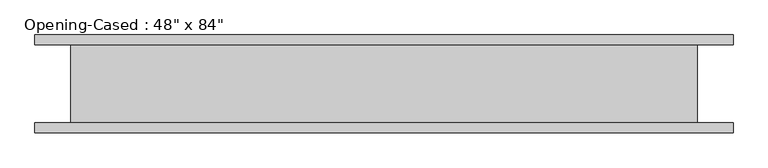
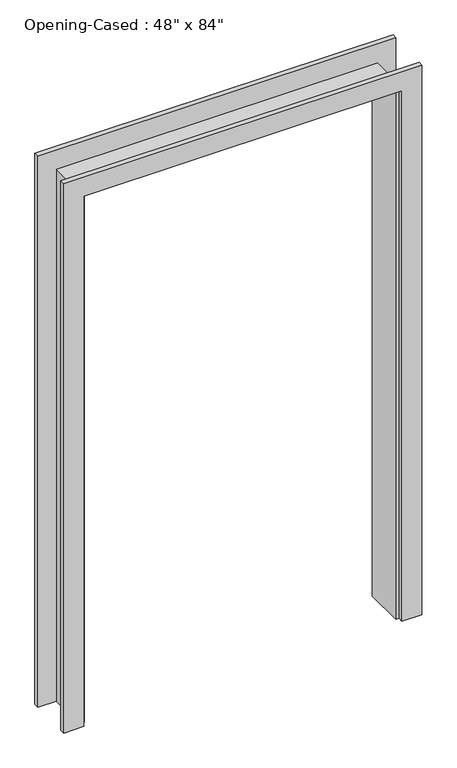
"""IFC4 building model written with IfcOpenShell, lengths in millimetres: proxy geometry."""

from ifc_helpers import new_model, si_unit, frame, origin, place, context, project, spatial, polyline, outline, extrude, faceted_brep, source, transform, mapped, element, save


def proxy_1227038f(model_context):
    return source(origin(), model_context, "Body", "SolidModel", [
        extrude(outline(polyline([(0.0, -611.4386567), (2127.25, -611.4386567), (2127.25, 595.0613433), (0.0, 595.0613433), (0.0, 671.2613433), (2203.45, 671.2613433), (2203.45, -687.6386567), (0.0, -687.6386567), (0.0, -611.4386567)])), frame((0.0, -95.25, 0.0), z_axis=(0.0, 1.0, 0.0), x_axis=(0.0, 0.0, 1.0)), (0.0, 0.0, 1.0), 19.05),
        extrude(outline(polyline([(0.0, 671.2613433), (2209.8, 671.2613433), (2209.8, -687.6386567), (0.0, -687.6386567), (0.0, -611.4386567), (2127.25, -611.4386567), (2127.25, 595.0613433), (0.0, 595.0613433), (0.0, 671.2613433)])), frame((0.0, 76.2, 0.0), z_axis=(0.0, 1.0, 0.0), x_axis=(0.0, 0.0, 1.0)), (0.0, 0.0, 1.0), 19.05),
        faceted_brep([(582.3613433, 76.2, 0.0), (601.4113433, 76.2, 0.0), (601.4113433, -76.2, 0.0), (582.3613433, -76.2, 0.0), (582.3613433, 76.2, 2114.55), (601.4113433, 76.2, 2133.6), (601.4113433, -76.2, 2133.6), (582.3613433, -76.2, 2114.55), (-598.7386567, 76.2, 2114.55), (-617.7886567, 76.2, 2133.6), (-617.7886567, -76.2, 2133.6), (-598.7386567, -76.2, 2114.55), (-598.7386567, 76.2, 0.0), (-598.7386567, -76.2, 0.0), (-617.7886567, -76.2, 0.0), (-617.7886567, 76.2, 0.0)], [[[0, 1, 2, 3]], [[1, 0, 4, 5]], [[2, 1, 5, 6]], [[3, 2, 6, 7]], [[0, 3, 7, 4]], [[5, 4, 8, 9]], [[6, 5, 9, 10]], [[7, 6, 10, 11]], [[4, 7, 11, 8]], [[12, 13, 14, 15]], [[9, 8, 12, 15]], [[10, 9, 15, 14]], [[11, 10, 14, 13]], [[8, 11, 13, 12]]]),
    ])


if __name__ == "__main__":
    model = new_model("IFC4")
    model_context = context("Model", 3, world=origin())
    ifc_project = project(units=[si_unit("LENGTHUNIT", "METRE", prefix="MILLI")], contexts=[model_context])
    site = spatial("IfcSite", under=ifc_project)
    building = spatial("IfcBuilding", under=site)
    placement = place(None, origin())
    proxy_shape = proxy_1227038f(model_context)
    element("IfcBuildingElementProxy", 1, Name="Opening-Cased : 48\" x 84\"", ObjectType="Opening-Cased : 48\" x 84\"", at=placement, inside=building, context=model_context, shape_type="MappedRepresentation", body=[
        mapped(proxy_shape, transform((0.0, 0.0, 0.0), x_axis=(1.0, 0.0, 0.0), y_axis=(0.0, 1.0, 0.0), z_axis=(0.0, 0.0, 1.0))),
    ])
    save(model, "model.ifc")
